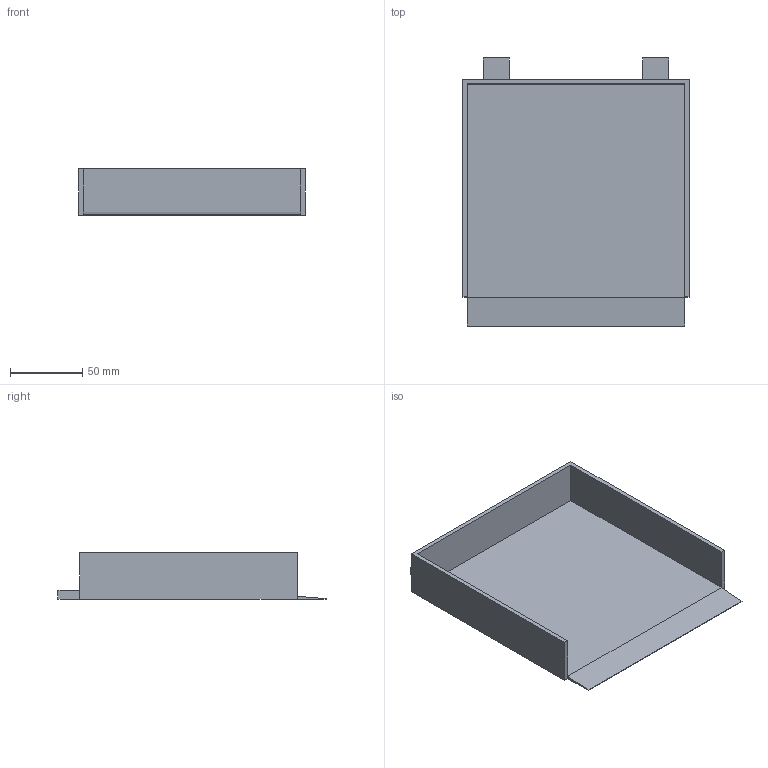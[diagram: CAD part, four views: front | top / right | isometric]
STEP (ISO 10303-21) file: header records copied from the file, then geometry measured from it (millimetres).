
FILE_DESCRIPTION(('Open CASCADE Model'),'2;1');
FILE_NAME('Open CASCADE Shape Model','2026-10-21T16:53:53',('Author'),( 'Open CASCADE'),'Open CASCADE STEP processor 7.9','Open CASCADE 7.9' ,'Unknown');
FILE_SCHEMA(('AUTOMOTIVE_DESIGN { 1 0 10303 214 1 1 1 1 }'));
Length unit declared in the file: millimetre
Products named in the file (1): Open CASCADE STEP translator 7.9 25
Bounding box: 156 x 185 x 32 mm (x, y, z)
Volume: 93617 mm3; surface area: 82666.7 mm2
Topology: 1 solids, 1 shells, 27 faces, 65 edges, 42 vertices
Faces by surface type: plane 25, cylinder 2
Full cylindrical faces by diameter (mm): 10.2 x2
Entity records: 1632 total; most frequent: CARTESIAN_POINT 277, DIRECTION 253, LINE 187, VECTOR 187, ORIENTED_EDGE 130, PCURVE 130, DEFINITIONAL_REPRESENTATION 130, EDGE_CURVE 65
